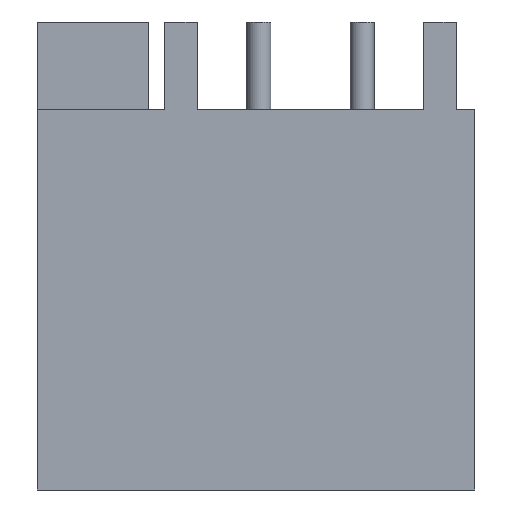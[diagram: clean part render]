
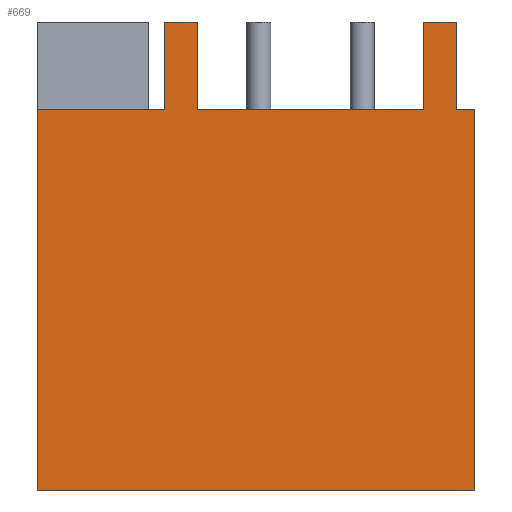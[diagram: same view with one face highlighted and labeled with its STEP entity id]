
A CAD part, left-side view. The second image highlights one B-rep face of the part: STEP entity #669.
In plain terms, the highlighted planar face has unit normal (-1, 0, 0).
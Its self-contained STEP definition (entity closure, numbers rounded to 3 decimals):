
#53=FACE_OUTER_BOUND('',#96,.T.);
#96=EDGE_LOOP('',(#502,#503,#504,#505,#506,#507,#508,#509,#510,#511,#512,
#513));
#123=LINE('',#942,#204);
#129=LINE('',#954,#210);
#139=LINE('',#978,#220);
#149=LINE('',#1004,#230);
#155=LINE('',#1017,#236);
#169=LINE('',#1047,#250);
#170=LINE('',#1050,#251);
#171=LINE('',#1051,#252);
#172=LINE('',#1052,#253);
#173=LINE('',#1054,#254);
#174=LINE('',#1056,#255);
#175=LINE('',#1057,#256);
#204=VECTOR('',#761,10.);
#210=VECTOR('',#769,10.);
#220=VECTOR('',#787,10.);
#230=VECTOR('',#807,10.);
#236=VECTOR('',#815,10.);
#250=VECTOR('',#841,10.);
#251=VECTOR('',#844,10.);
#252=VECTOR('',#845,10.);
#253=VECTOR('',#846,10.);
#254=VECTOR('',#847,10.);
#255=VECTOR('',#848,10.);
#256=VECTOR('',#849,10.);
#285=VERTEX_POINT('',#940);
#286=VERTEX_POINT('',#941);
#291=VERTEX_POINT('',#953);
#301=VERTEX_POINT('',#977);
#311=VERTEX_POINT('',#1002);
#312=VERTEX_POINT('',#1003);
#317=VERTEX_POINT('',#1015);
#318=VERTEX_POINT('',#1016);
#328=VERTEX_POINT('',#1045);
#329=VERTEX_POINT('',#1049);
#330=VERTEX_POINT('',#1053);
#331=VERTEX_POINT('',#1055);
#347=EDGE_CURVE('',#285,#286,#123,.T.);
#353=EDGE_CURVE('',#286,#291,#129,.T.);
#365=EDGE_CURVE('',#301,#285,#139,.T.);
#377=EDGE_CURVE('',#311,#312,#149,.T.);
#383=EDGE_CURVE('',#317,#318,#155,.T.);
#399=EDGE_CURVE('',#317,#328,#169,.T.);
#400=EDGE_CURVE('',#329,#328,#170,.T.);
#401=EDGE_CURVE('',#312,#329,#171,.T.);
#402=EDGE_CURVE('',#311,#291,#172,.T.);
#403=EDGE_CURVE('',#301,#330,#173,.T.);
#404=EDGE_CURVE('',#331,#330,#174,.T.);
#405=EDGE_CURVE('',#318,#331,#175,.T.);
#502=ORIENTED_EDGE('',*,*,#399,.T.);
#503=ORIENTED_EDGE('',*,*,#400,.F.);
#504=ORIENTED_EDGE('',*,*,#401,.F.);
#505=ORIENTED_EDGE('',*,*,#377,.F.);
#506=ORIENTED_EDGE('',*,*,#402,.T.);
#507=ORIENTED_EDGE('',*,*,#353,.F.);
#508=ORIENTED_EDGE('',*,*,#347,.F.);
#509=ORIENTED_EDGE('',*,*,#365,.F.);
#510=ORIENTED_EDGE('',*,*,#403,.T.);
#511=ORIENTED_EDGE('',*,*,#404,.F.);
#512=ORIENTED_EDGE('',*,*,#405,.F.);
#513=ORIENTED_EDGE('',*,*,#383,.F.);
#638=PLANE('',#726);
#669=ADVANCED_FACE('',(#53),#638,.T.);
#726=AXIS2_PLACEMENT_3D('',#1048,#842,#843);
#761=DIRECTION('',(0.,0.,-1.));
#769=DIRECTION('',(0.,1.,0.));
#787=DIRECTION('',(0.,-1.,0.));
#807=DIRECTION('',(0.,-1.,0.));
#815=DIRECTION('',(0.,-1.,0.));
#841=DIRECTION('',(0.,0.,1.));
#842=DIRECTION('center_axis',(-1.,0.,0.));
#843=DIRECTION('ref_axis',(0.,-1.,0.));
#844=DIRECTION('',(0.,-1.,0.));
#845=DIRECTION('',(0.,0.,1.));
#846=DIRECTION('',(0.,0.,-1.));
#847=DIRECTION('',(0.,0.,1.));
#848=DIRECTION('',(0.,-1.,0.));
#849=DIRECTION('',(0.,0.,1.));
#940=CARTESIAN_POINT('',(9.8,0.,35.));
#941=CARTESIAN_POINT('',(9.8,0.,0.));
#942=CARTESIAN_POINT('',(9.8,0.,17.5));
#953=CARTESIAN_POINT('',(9.8,40.2,0.));
#954=CARTESIAN_POINT('',(9.8,32.6,0.));
#977=CARTESIAN_POINT('',(9.8,1.7,35.));
#978=CARTESIAN_POINT('',(9.8,32.6,35.));
#1002=CARTESIAN_POINT('',(9.8,40.2,35.));
#1003=CARTESIAN_POINT('',(9.8,28.5,35.));
#1004=CARTESIAN_POINT('',(9.8,32.6,35.));
#1015=CARTESIAN_POINT('',(9.8,25.5,35.));
#1016=CARTESIAN_POINT('',(9.8,4.7,35.));
#1017=CARTESIAN_POINT('',(9.8,32.6,35.));
#1045=CARTESIAN_POINT('',(9.8,25.5,43.));
#1047=CARTESIAN_POINT('',(9.8,25.5,35.));
#1048=CARTESIAN_POINT('Origin',(9.8,28.5,35.));
#1049=CARTESIAN_POINT('',(9.8,28.5,43.));
#1050=CARTESIAN_POINT('',(9.8,25.5,43.));
#1051=CARTESIAN_POINT('',(9.8,28.5,35.));
#1052=CARTESIAN_POINT('',(9.8,40.2,35.));
#1053=CARTESIAN_POINT('',(9.8,1.7,43.));
#1054=CARTESIAN_POINT('',(9.8,1.7,35.));
#1055=CARTESIAN_POINT('',(9.8,4.7,43.));
#1056=CARTESIAN_POINT('',(9.8,4.7,43.));
#1057=CARTESIAN_POINT('',(9.8,4.7,35.));
